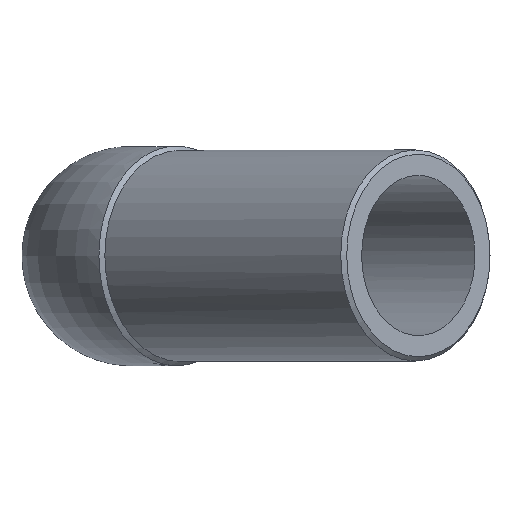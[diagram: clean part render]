
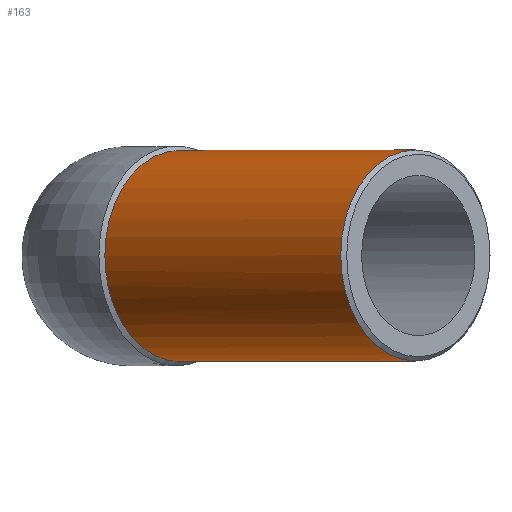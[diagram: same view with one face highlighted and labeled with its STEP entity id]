
A CAD part, top view. The second image highlights one B-rep face of the part: STEP entity #163.
In plain terms, the highlighted cylindrical face has radius 12.5 mm (diameter 25 mm), a full revolution.
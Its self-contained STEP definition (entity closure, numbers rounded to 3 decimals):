
#25=CYLINDRICAL_SURFACE('',#189,12.5);
#37=ORIENTED_EDGE('',*,*,#71,.T.);
#38=ORIENTED_EDGE('',*,*,#69,.F.);
#69=EDGE_CURVE('',#86,#86,#102,.T.);
#71=EDGE_CURVE('',#88,#88,#103,.T.);
#86=VERTEX_POINT('',#261);
#88=VERTEX_POINT('',#284);
#102=CIRCLE('',#188,12.5);
#103=CIRCLE('',#190,12.5);
#114=EDGE_LOOP('',(#37));
#115=EDGE_LOOP('',(#38));
#137=FACE_BOUND('',#114,.T.);
#138=FACE_BOUND('',#115,.T.);
#163=ADVANCED_FACE('',(#137,#138),#25,.T.);
#188=AXIS2_PLACEMENT_3D('',#260,#214,#215);
#189=AXIS2_PLACEMENT_3D('',#282,#216,#217);
#190=AXIS2_PLACEMENT_3D('',#283,#218,#219);
#214=DIRECTION('',(-0.707,0.,-0.707));
#215=DIRECTION('',(-0.707,0.,0.707));
#216=DIRECTION('',(0.707,0.,0.707));
#217=DIRECTION('',(-0.707,0.,0.707));
#218=DIRECTION('',(-0.707,0.,-0.707));
#219=DIRECTION('',(-0.707,0.,0.707));
#260=CARTESIAN_POINT('',(5.657,0.,5.657));
#261=CARTESIAN_POINT('',(-3.182,0.,14.496));
#282=CARTESIAN_POINT('',(65.054,0.,65.054));
#283=CARTESIAN_POINT('',(33.588,0.,33.588));
#284=CARTESIAN_POINT('',(24.749,0.,42.426));
